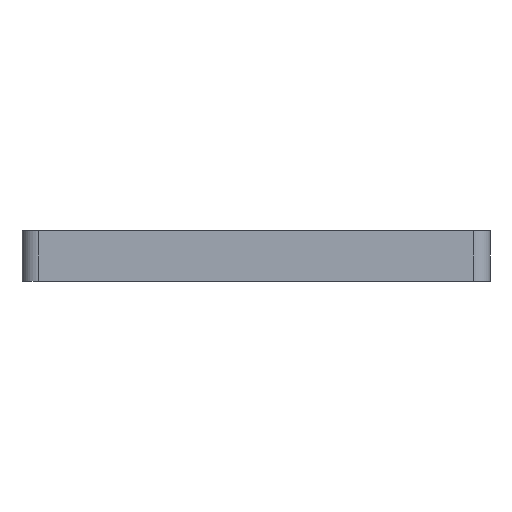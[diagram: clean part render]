
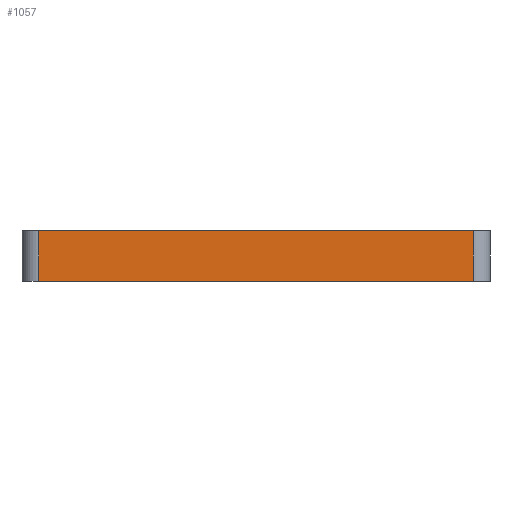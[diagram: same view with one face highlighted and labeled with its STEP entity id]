
A CAD part, front view. The second image highlights one B-rep face of the part: STEP entity #1057.
In plain terms, the highlighted planar face has unit normal (0, -1, 0).
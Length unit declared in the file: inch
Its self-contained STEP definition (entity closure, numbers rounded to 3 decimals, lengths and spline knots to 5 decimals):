
#73 = ORIENTED_EDGE ( 'NONE', *, *, #663, .F. ) ;
#116 = DIRECTION ( 'NONE',  ( 0., 0., 1. ) ) ;
#123 = CARTESIAN_POINT ( 'NONE',  ( -1.62344, -2.81, 0.375 ) ) ;
#269 = VECTOR ( 'NONE', #116, 39.37008 ) ;
#341 = VECTOR ( 'NONE', #1206, 39.37008 ) ;
#402 = VERTEX_POINT ( 'NONE', #1088 ) ;
#415 = DIRECTION ( 'NONE',  ( 0., 0., -1. ) ) ;
#422 = CARTESIAN_POINT ( 'NONE',  ( -1.74844, -2.81, 0. ) ) ;
#471 = ORIENTED_EDGE ( 'NONE', *, *, #1032, .T. ) ;
#536 = ORIENTED_EDGE ( 'NONE', *, *, #1902, .T. ) ;
#561 = FACE_OUTER_BOUND ( 'NONE', #1632, .T. ) ;
#562 = VERTEX_POINT ( 'NONE', #1464 ) ;
#663 = EDGE_CURVE ( 'NONE', #1549, #562, #882, .T. ) ;
#681 = CARTESIAN_POINT ( 'NONE',  ( -1.74844, -2.81, 0.375 ) ) ;
#687 = AXIS2_PLACEMENT_3D ( 'NONE', #422, #1488, #415 ) ;
#869 = CARTESIAN_POINT ( 'NONE',  ( -1.62344, -2.81, 0. ) ) ;
#882 = LINE ( 'NONE', #681, #1343 ) ;
#895 = CARTESIAN_POINT ( 'NONE',  ( -1.74844, -2.81, 0. ) ) ;
#1032 = EDGE_CURVE ( 'NONE', #1549, #1090, #1779, .T. ) ;
#1057 = ADVANCED_FACE ( 'NONE', ( #561 ), #1950, .T. ) ;
#1088 = CARTESIAN_POINT ( 'NONE',  ( 1.62344, -2.81, 0. ) ) ;
#1090 = VERTEX_POINT ( 'NONE', #869 ) ;
#1206 = DIRECTION ( 'NONE',  ( 1., 0., 0. ) ) ;
#1337 = CARTESIAN_POINT ( 'NONE',  ( 1.62344, -2.81, 0. ) ) ;
#1343 = VECTOR ( 'NONE', #1753, 39.37008 ) ;
#1377 = VECTOR ( 'NONE', #1496, 39.37008 ) ;
#1464 = CARTESIAN_POINT ( 'NONE',  ( 1.62344, -2.81, 0.375 ) ) ;
#1488 = DIRECTION ( 'NONE',  ( 0., -1., 0. ) ) ;
#1496 = DIRECTION ( 'NONE',  ( 0., 0., -1. ) ) ;
#1549 = VERTEX_POINT ( 'NONE', #123 ) ;
#1573 = LINE ( 'NONE', #895, #341 ) ;
#1606 = EDGE_CURVE ( 'NONE', #1090, #402, #1573, .T. ) ;
#1628 = ORIENTED_EDGE ( 'NONE', *, *, #1606, .T. ) ;
#1632 = EDGE_LOOP ( 'NONE', ( #1628, #536, #73, #471 ) ) ;
#1753 = DIRECTION ( 'NONE',  ( 1., 0., 0. ) ) ;
#1779 = LINE ( 'NONE', #1958, #1377 ) ;
#1898 = LINE ( 'NONE', #1337, #269 ) ;
#1902 = EDGE_CURVE ( 'NONE', #402, #562, #1898, .T. ) ;
#1950 = PLANE ( 'NONE',  #687 ) ;
#1958 = CARTESIAN_POINT ( 'NONE',  ( -1.62344, -2.81, 0. ) ) ;
